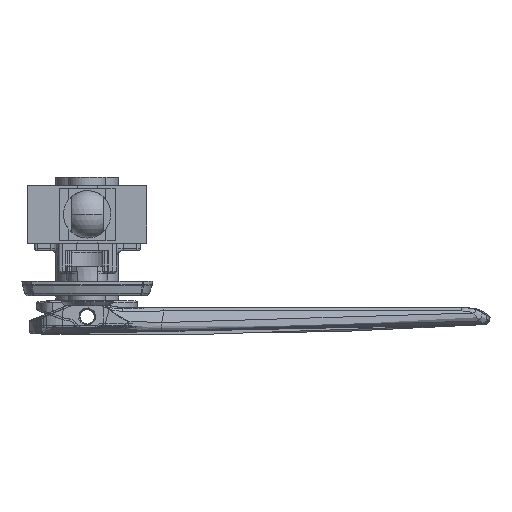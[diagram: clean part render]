
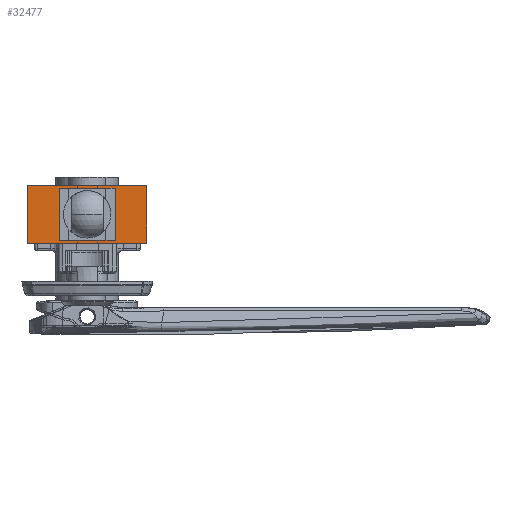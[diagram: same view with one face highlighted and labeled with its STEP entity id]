
A CAD part, front view. The second image highlights one B-rep face of the part: STEP entity #32477.
In plain terms, the highlighted planar face has unit normal (0, -1, 0).
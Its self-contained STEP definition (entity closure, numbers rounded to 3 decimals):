
#136 = FACE_BOUND ( 'NONE', #32284, .T. ) ;
#244 = CARTESIAN_POINT ( 'NONE',  ( -7., -199.25, -6.25 ) ) ;
#302 = VECTOR ( 'NONE', #15406, 1000. ) ;
#998 = LINE ( 'NONE', #24606, #17724 ) ;
#1027 = EDGE_CURVE ( 'NONE', #22065, #18087, #4406, .T. ) ;
#1364 = CARTESIAN_POINT ( 'NONE',  ( 7., -199.25, -6.25 ) ) ;
#2045 = VERTEX_POINT ( 'NONE', #17331 ) ;
#2122 = ORIENTED_EDGE ( 'NONE', *, *, #32569, .F. ) ;
#2673 = DIRECTION ( 'NONE',  ( 0., 1., 0. ) ) ;
#3215 = LINE ( 'NONE', #26484, #24914 ) ;
#4118 = EDGE_CURVE ( 'NONE', #2045, #18087, #20523, .T. ) ;
#4406 = LINE ( 'NONE', #20501, #25521 ) ;
#4670 = VERTEX_POINT ( 'NONE', #244 ) ;
#4735 = ORIENTED_EDGE ( 'NONE', *, *, #27389, .F. ) ;
#6110 = DIRECTION ( 'NONE',  ( 0., 0., -1. ) ) ;
#6245 = CARTESIAN_POINT ( 'NONE',  ( -16., -199.25, 7.75 ) ) ;
#7920 = VECTOR ( 'NONE', #24099, 1000. ) ;
#7942 = PLANE ( 'NONE',  #23328 ) ;
#8310 = ORIENTED_EDGE ( 'NONE', *, *, #28872, .T. ) ;
#9035 = VECTOR ( 'NONE', #16931, 1000. ) ;
#9057 = VERTEX_POINT ( 'NONE', #1364 ) ;
#9065 = ORIENTED_EDGE ( 'NONE', *, *, #31335, .F. ) ;
#9503 = DIRECTION ( 'NONE',  ( 1., 0., 0. ) ) ;
#9818 = LINE ( 'NONE', #25268, #302 ) ;
#9834 = CARTESIAN_POINT ( 'NONE',  ( -16., -199.25, 7.75 ) ) ;
#9996 = CARTESIAN_POINT ( 'NONE',  ( 7., -199.25, 6.25 ) ) ;
#10164 = CARTESIAN_POINT ( 'NONE',  ( -7., -199.25, -6.25 ) ) ;
#10319 = VECTOR ( 'NONE', #28497, 1000. ) ;
#10479 = VECTOR ( 'NONE', #12857, 1000. ) ;
#11460 = ORIENTED_EDGE ( 'NONE', *, *, #1027, .T. ) ;
#11762 = CARTESIAN_POINT ( 'NONE',  ( -16., -199.25, -7.75 ) ) ;
#11899 = ORIENTED_EDGE ( 'NONE', *, *, #4118, .F. ) ;
#12857 = DIRECTION ( 'NONE',  ( 1., 0., 0. ) ) ;
#13718 = LINE ( 'NONE', #18327, #7920 ) ;
#13804 = EDGE_LOOP ( 'NONE', ( #11460, #11899, #18863, #8310 ) ) ;
#15224 = CARTESIAN_POINT ( 'NONE',  ( -7., -199.25, 6.25 ) ) ;
#15310 = CARTESIAN_POINT ( 'NONE',  ( 7., -199.25, 6.25 ) ) ;
#15406 = DIRECTION ( 'NONE',  ( -1., 0., 0. ) ) ;
#15426 = LINE ( 'NONE', #10164, #10479 ) ;
#16654 = EDGE_CURVE ( 'NONE', #23046, #26266, #9818, .T. ) ;
#16931 = DIRECTION ( 'NONE',  ( 0., 0., -1. ) ) ;
#17331 = CARTESIAN_POINT ( 'NONE',  ( 16., -199.25, 7.75 ) ) ;
#17614 = EDGE_CURVE ( 'NONE', #21837, #2045, #998, .T. ) ;
#17724 = VECTOR ( 'NONE', #22225, 1000. ) ;
#17806 = FACE_OUTER_BOUND ( 'NONE', #13804, .T. ) ;
#18087 = VERTEX_POINT ( 'NONE', #26884 ) ;
#18327 = CARTESIAN_POINT ( 'NONE',  ( -16., -199.25, 7.75 ) ) ;
#18863 = ORIENTED_EDGE ( 'NONE', *, *, #17614, .F. ) ;
#20501 = CARTESIAN_POINT ( 'NONE',  ( -16., -199.25, -7.75 ) ) ;
#20523 = LINE ( 'NONE', #20861, #9035 ) ;
#20861 = CARTESIAN_POINT ( 'NONE',  ( 16., -199.25, 7.75 ) ) ;
#21837 = VERTEX_POINT ( 'NONE', #6245 ) ;
#22065 = VERTEX_POINT ( 'NONE', #11762 ) ;
#22225 = DIRECTION ( 'NONE',  ( 1., 0., 0. ) ) ;
#22895 = LINE ( 'NONE', #9996, #10319 ) ;
#23046 = VERTEX_POINT ( 'NONE', #15310 ) ;
#23079 = ORIENTED_EDGE ( 'NONE', *, *, #16654, .F. ) ;
#23328 = AXIS2_PLACEMENT_3D ( 'NONE', #9834, #2673, #25793 ) ;
#24099 = DIRECTION ( 'NONE',  ( 0., 0., -1. ) ) ;
#24606 = CARTESIAN_POINT ( 'NONE',  ( -16., -199.25, 7.75 ) ) ;
#24914 = VECTOR ( 'NONE', #6110, 1000. ) ;
#25268 = CARTESIAN_POINT ( 'NONE',  ( 7., -199.25, 6.25 ) ) ;
#25521 = VECTOR ( 'NONE', #9503, 1000. ) ;
#25793 = DIRECTION ( 'NONE',  ( 0., 0., 1. ) ) ;
#26266 = VERTEX_POINT ( 'NONE', #15224 ) ;
#26484 = CARTESIAN_POINT ( 'NONE',  ( -7., -199.25, -6.25 ) ) ;
#26884 = CARTESIAN_POINT ( 'NONE',  ( 16., -199.25, -7.75 ) ) ;
#27389 = EDGE_CURVE ( 'NONE', #4670, #9057, #15426, .T. ) ;
#28497 = DIRECTION ( 'NONE',  ( 0., 0., 1. ) ) ;
#28872 = EDGE_CURVE ( 'NONE', #21837, #22065, #13718, .T. ) ;
#31335 = EDGE_CURVE ( 'NONE', #26266, #4670, #3215, .T. ) ;
#32284 = EDGE_LOOP ( 'NONE', ( #9065, #23079, #2122, #4735 ) ) ;
#32477 = ADVANCED_FACE ( 'NONE', ( #136, #17806 ), #7942, .F. ) ;
#32569 = EDGE_CURVE ( 'NONE', #9057, #23046, #22895, .T. ) ;
